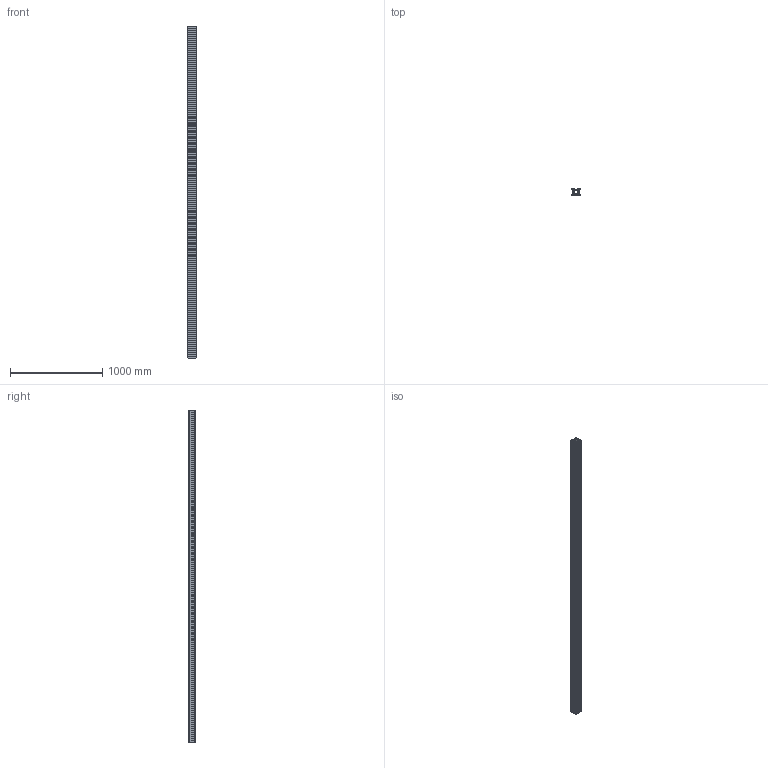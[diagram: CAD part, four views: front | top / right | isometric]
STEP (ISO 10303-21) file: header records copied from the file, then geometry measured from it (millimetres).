
FILE_DESCRIPTION (( 'STEP AP203' ), '1' );
FILE_NAME ('_-_MLF 4 3598 mm lang.step', '2005-09-01T12:46:55', ( ' ' ), ( ' ' ), 'SwSTEP 2.0', 'SolidWorks 2005187', '' );
FILE_SCHEMA (( 'CONFIG_CONTROL_DESIGN' ));
Length unit declared in the file: millimetre
Products named in the file (1): _-_MLF 4  3598 mm lang
Bounding box: 87.56 x 80 x 3598 mm (x, y, z)
Volume: 8290453.5 mm3; surface area: 4443359.2 mm2
Topology: 1 solids, 1 shells, 248 faces, 762 edges, 500 vertices
Faces by surface type: plane 174, cylinder 74
Entity records: 8575 total; most frequent: ORIENTED_EDGE 1524, CARTESIAN_POINT 1511, DIRECTION 1408, EDGE_CURVE 762, VECTOR 614, LINE 614, VERTEX_POINT 500, AXIS2_PLACEMENT_3D 397
